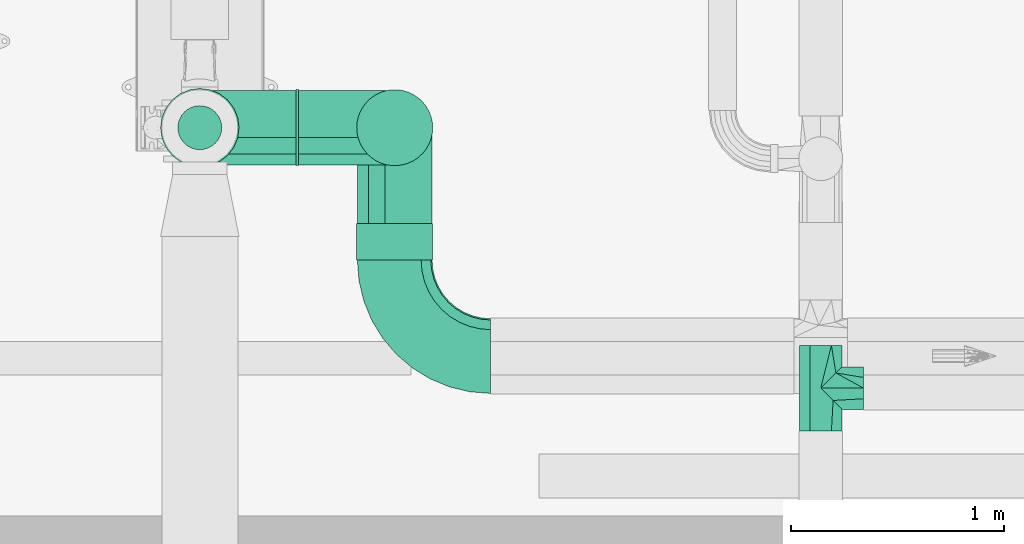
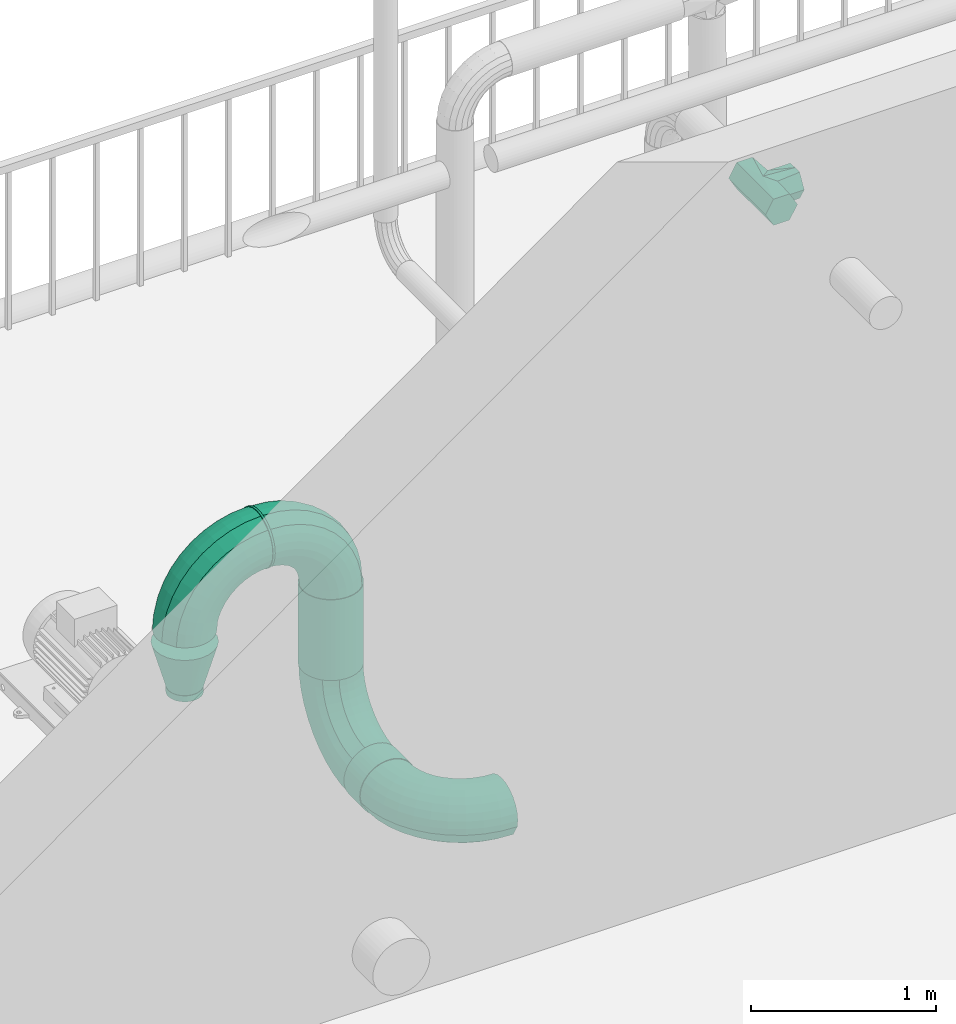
# One storey, part 13 of 28: 6 flow fittings, 4 flow segments.
"""IFC2X3 building model written with IfcOpenShell, lengths in millimetres."""

from ifc_helpers import new_model, entity, si_unit, converted_unit, direction, frame, frame_2d, origin, origin_2d_with_axis, place, context, subcontext, project, spatial, circle, extrude, faceted_brep, source, transform, mapped, material, type_object, type_shapes, element, save


model = new_model("IFC2X3")

# Units and contexts
model_context = context("Model", 3, precision=0.01, world=origin(), true_north=direction((6.123031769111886e-17, 1.0)))
body_context = subcontext(model_context, "Body", "Model", "MODEL_VIEW")
ifc_project = project(units=[si_unit("LENGTHUNIT", "METRE", prefix="MILLI"), converted_unit("PLANEANGLEUNIT", "DEGREE", entity("IfcPlaneAngleMeasure", 0.017453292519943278), si_unit("PLANEANGLEUNIT", "RADIAN"), dimensions=[0, 0, 0, 0, 0, 0, 0]), si_unit("AREAUNIT", "SQUARE_METRE")], contexts=[model_context])

# Site, building, storey
site_placement = place(None, frame((7776.576483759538, 118.3519876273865, 0.0)))
site = spatial("IfcSite", under=ifc_project, at=site_placement, Name="Default", CompositionType="ELEMENT")
building_placement = place(site_placement, origin())
building = spatial("IfcBuilding", under=site, at=building_placement, Name="Bygning (endres i Project Information)", CompositionType="ELEMENT")
storey_placement = place(building_placement, frame((0.0, 0.0, 14000.0)))
storey = spatial("IfcBuildingStorey", under=building, at=storey_placement, Name="Plan U1 - Arbeid", CompositionType="ELEMENT", Elevation=14000.000000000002)

# Flow segments
ifc_material = material(Name="SS 2343 Rustfritt stål, prosessrør, generisk")
pipe_segment_type = type_object("IfcPipeSegmentType", Name="Pipe Types:AISI 304L Rustfritt", PredefinedType="NOTDEFINED", material=ifc_material)
flow_segment_1_placement = place(storey_placement, origin())
element("IfcFlowSegment", 1, at=flow_segment_1_placement, inside=storey, type_object=pipe_segment_type, Name="Pipe Types:AISI 304L Rustfritt", ObjectType="Pipe Types:AISI 304L Rustfritt", context=body_context, shape_type="SweptSolid", body=[
    extrude(circle(Radius=178.0, at=frame_2d((0.0, -2.710011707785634e-25), x_axis=(1.0, 0.0))), frame((23634.00137486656, 26318.06683335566, 1636.4653975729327), z_axis=(1.0, 0.0, 0.0), x_axis=(0.0, -1.0, 0.0)), (0.0, 0.0, 1.0), 13.42895804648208),
])
flow_segment_2_placement = place(storey_placement, origin())
element("IfcFlowSegment", 2, at=flow_segment_2_placement, inside=storey, type_object=pipe_segment_type, Name="Pipe Types:AISI 304L Rustfritt", ObjectType="Pipe Types:AISI 304L Rustfritt", context=body_context, shape_type="SweptSolid", body=[
    extrude(circle(Radius=178.0, at=frame_2d((0.0, 4.331468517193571e-12), x_axis=(1.0, 0.0))), frame((24097.430332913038, 26318.06683335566, 653.0)), (0.0, 0.0, 1.0), 533.4653975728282),
])
flow_segment_3_placement = place(storey_placement, origin())
element("IfcFlowSegment", 3, at=flow_segment_3_placement, inside=storey, type_object=pipe_segment_type, Name="Pipe Types:AISI 304L Rustfritt", ObjectType="Pipe Types:AISI 304L Rustfritt", context=body_context, shape_type="SweptSolid", body=[
    extrude(circle(Radius=178.0, at=origin_2d_with_axis()), frame((24097.430332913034, 25697.757305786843, 203.0), z_axis=(0.0, 1.0, 0.0), x_axis=(-1.0, 0.0, 0.0)), (0.0, 0.0, 1.0), 170.3095275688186),
])
flow_segment_4_placement = place(storey_placement, origin())
element("IfcFlowSegment", 4, at=flow_segment_4_placement, inside=storey, type_object=pipe_segment_type, Name="Pipe Types:AISI 304L Rustfritt", ObjectType="Pipe Types:AISI 304L Rustfritt", context=body_context, shape_type="SweptSolid", body=[
    extrude(circle(Radius=103.0, at=origin_2d_with_axis()), frame((23184.001374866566, 26318.066833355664, 780.0246873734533), z_axis=(0.0, 0.0, 1.0), x_axis=(-1.0, 0.0, 0.0)), (0.0, 0.0, 1.0), 40.00000000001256),
])

# Flow fittings
pipe_fitting_type_1 = type_object("IfcPipeFittingType", Name="VA_prosess_rustfritt_T_D=L:T-rør_prosess_D=L", PredefinedType="NOTDEFINED", material=ifc_material)
shared_shape_1 = source(origin(), body_context, "Body", "Brep", [
    faceted_brep([(-200.0, -100.0, 0.0), (-200.0, -87.49999999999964, 21.65063509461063), (-200.0, -75.0, 43.30127018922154), (-200.0, -50.0, 86.60254037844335), (-200.0, 0.0, 86.60254037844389), (-200.0, 50.0, 86.60254037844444), (-200.0, 75.0, 43.30127018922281), (-200.0, 100.0, 0.0), (-200.0, 79.16042262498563, -36.0952068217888), (-200.0, 50.0, -86.60254037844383), (-200.0, 0.0, -86.60254037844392), (-200.0, -50.0, -86.60254037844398), (-200.0, -75.0, -43.301270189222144), (200.0, 50.0, -86.60254037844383), (200.0, 75.0, -43.30127018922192), (200.0, 100.0, 0.0), (200.0, 75.0, 43.30127018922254), (200.0, 50.0, 86.60254037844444), (200.0, 0.0, 86.60254037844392), (200.0, -50.0, 86.60254037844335), (200.0, -75.0, 43.3012701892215), (200.0, -100.0, 0.0), (200.0, -87.50000000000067, -21.650635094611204), (200.0, -75.0, -43.30127018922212), (200.0, -50.0, -86.60254037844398), (200.0, 0.0, -86.60254037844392), (85.43158849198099, -85.43158849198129, 35.2789248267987), (70.86317698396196, -70.8631769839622, 70.55784965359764), (0.0, 0.0, 100.0), (-58.003463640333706, -58.00346364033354, 81.45918122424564), (100.0, -100.0, 0.0), (-100.0, -100.0, 0.0), (-80.86239826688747, -80.86239826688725, 37.12052237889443), (-79.00173182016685, -79.00173182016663, 40.7295906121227), (80.86239826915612, -80.86239826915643, -37.120522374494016), (-85.43158849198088, -85.43158849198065, -35.27892482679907), (0.0, 0.0, -100.0), (79.00173182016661, -79.00173182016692, -40.729590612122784), (58.003463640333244, -58.0034636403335, -81.45918122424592), (-70.86317698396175, -70.86317698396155, -70.55784965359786), (50.0, -200.0, -86.60254037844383), (79.16042328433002, -200.0, -36.09520567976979), (100.0, -200.0, 0.0), (75.0, -200.0, 43.301270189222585), (50.0, -200.0, 86.60254037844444), (0.0, -200.0, 86.60254037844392), (-50.0, -200.0, 86.60254037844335), (-79.16042252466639, -200.0, 36.09520699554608), (-100.0, -200.0, 0.0), (-75.0, -200.0, -43.30127018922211), (-50.0, -200.0, -86.60254037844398), (0.0, -200.0, -86.60254037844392)], [[[0, 1, 2, 3, 4, 5, 6, 7, 8, 9, 10, 11, 12]], [[13, 14, 15, 16, 17, 18, 19, 20, 21, 22, 23, 24, 25]], [[20, 26, 21]], [[27, 20, 19]], [[28, 19, 18, 17]], [[2, 29, 3]], [[21, 26, 30]], [[0, 31, 1]], [[20, 27, 26]], [[19, 28, 27]], [[7, 6, 5, 17, 16, 15]], [[3, 28, 5, 4]], [[3, 29, 28]], [[32, 2, 1]], [[5, 28, 17]], [[2, 32, 33, 29]], [[31, 32, 1]], [[9, 8, 7, 15, 14, 13]], [[30, 34, 22]], [[0, 35, 31]], [[9, 13, 36]], [[23, 34, 37, 38]], [[10, 9, 36, 11]], [[36, 13, 25, 24]], [[30, 22, 21]], [[34, 23, 22]], [[38, 24, 23]], [[39, 11, 36]], [[12, 35, 0]], [[12, 39, 35]], [[39, 12, 11]], [[24, 38, 36]], [[40, 41, 42, 43, 44, 45, 46, 47, 48, 49, 50, 51]], [[33, 46, 29]], [[31, 48, 47]], [[46, 33, 47]], [[47, 33, 32, 31]], [[29, 46, 45]], [[30, 43, 42]], [[45, 27, 28]], [[27, 44, 43]], [[29, 45, 28]], [[43, 30, 26, 27]], [[45, 44, 27]], [[37, 40, 38]], [[30, 42, 41]], [[40, 37, 41]], [[41, 37, 34, 30]], [[38, 40, 51]], [[31, 49, 48]], [[51, 39, 36]], [[39, 50, 49]], [[38, 51, 36]], [[49, 31, 35, 39]], [[51, 50, 39]]]),
])
type_shapes(pipe_fitting_type_1, [shared_shape_1])
flow_fitting_1_placement = place(storey_placement, frame((26093.826249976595, 25097.757305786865, 3803.0), z_axis=(0.0, 0.0, 1.0), x_axis=(0.0, 1.0, 0.0)))
element("IfcFlowFitting", 5, at=flow_fitting_1_placement, inside=storey, type_object=pipe_fitting_type_1, material=ifc_material, Name="VA_prosess_rustfritt_T_D=L:T-rør_prosess_D=L", ObjectType="VA_prosess_rustfritt_T_D=L:T-rør_prosess_D=L", context=body_context, shape_type="MappedRepresentation", body=[
    mapped(shared_shape_1, transform((0.0, 0.0, 0.0), scale=1.0)),
])
pipe_fitting_type_2 = type_object("IfcPipeFittingType", Name="VA_prosess_rustfritt_bend_D+100:VA_prosess_rustfritt_bend_D+100", PredefinedType="NOTDEFINED", material=ifc_material)
shared_shape_2 = source(origin(), body_context, "Body", "Brep", [
    faceted_brep([(-352.2284593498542, -167.30521287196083, 0.0), (-353.16127499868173, -161.4156466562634, 45.29333289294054), (-450.0, -169.03701960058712, 45.29333289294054), (-450.0, -175.0, 0.0), (-355.89615210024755, -144.14831221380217, 87.4999999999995), (-450.0, -151.5544456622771, 87.4999999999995), (-360.2467132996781, -116.67994985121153, 123.74368670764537), (-450.0, -123.74368670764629, 123.74368670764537), (-365.91647504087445, -80.88248306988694, 151.5544456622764), (-450.0, -87.50000000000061, 151.5544456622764), (-372.5190524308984, -39.19545007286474, 169.03701960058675), (-450.0, -45.29333289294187, 169.03701960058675), (-379.6044907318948, 5.540246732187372, 175.0), (-450.0, 0.0, 175.0), (-386.6899290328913, 50.27594353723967, 169.03701960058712), (-450.0, 45.293332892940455, 169.03701960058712), (-393.29250642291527, 91.96297653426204, 151.55444566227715), (-450.0, 87.49999999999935, 151.55444566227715), (-398.9622681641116, 127.76044331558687, 123.7436867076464), (-450.0, 123.74368670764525, 123.7436867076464), (-406.04770646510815, 172.49614012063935, 45.29333289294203), (-450.0, 169.03701960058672, 45.29333289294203), (-406.98052211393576, 178.3857063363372, 0.0), (-450.0, 175.0, 0.0), (-406.0477064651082, 172.4961401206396, -45.29333289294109), (-450.0, 169.03701960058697, -45.29333289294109), (-403.31282936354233, 155.22880567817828, -87.49999999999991), (-450.0, 151.55444566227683, -87.49999999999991), (-398.9622681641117, 127.76044331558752, -123.74368670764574), (-450.0, 123.7436867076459, -123.74368670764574), (-393.2925064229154, 91.96297653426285, -151.5544456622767), (-450.0, 87.50000000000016, -151.5544456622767), (-386.6899290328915, 50.27594353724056, -169.0370196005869), (-450.0, 45.29333289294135, -169.0370196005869), (-379.604490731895, 5.540246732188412, -175.0), (-450.0, 0.0, -175.0), (-372.5190524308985, -39.195450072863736, -169.03701960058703), (-450.0, -45.29333289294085, -169.03701960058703), (-365.9164750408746, -80.88248306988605, -151.55444566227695), (-450.0, -87.4999999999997, -151.55444566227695), (-360.2467132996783, -116.6799498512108, -123.74368670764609), (-450.0, -123.74368670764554, -123.74368670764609), (-353.16127499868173, -161.41564665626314, -45.29333289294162), (-450.0, -169.03701960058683, -45.29333289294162), (-256.86437851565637, -144.41032268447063, 0.0), (-258.70704079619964, -138.7391913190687, 45.29333289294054), (-264.109453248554, -122.11227545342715, 87.4999999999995), (-272.7034503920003, -95.66267192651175, 123.74368670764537), (-283.9033655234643, -61.19287750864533, 151.5544456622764), (-296.9459429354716, -21.051951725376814, 169.03701960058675), (-310.94235253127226, 22.024567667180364, 175.0), (-324.93876212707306, 65.10108705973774, 169.03701960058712), (-337.9813395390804, 105.24201284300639, 151.55444566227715), (-349.18125467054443, 139.71180726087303, 123.7436867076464), (-363.1776642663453, 182.78832665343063, 45.29333289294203), (-365.0203265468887, 188.4594580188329, 0.0), (-363.17766426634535, 182.78832665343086, -45.29333289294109), (-357.77525181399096, 166.1614107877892, -87.49999999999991), (-349.18125467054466, 139.71180726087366, -123.74368670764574), (-337.9813395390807, 105.24201284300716, -151.5544456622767), (-324.93876212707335, 65.10108705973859, -169.0370196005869), (-310.9423525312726, 22.024567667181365, -175.0), (-296.94594293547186, -21.051951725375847, -169.03701960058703), (-283.9033655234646, -61.192877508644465, -151.55444566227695), (-272.70345039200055, -95.66267192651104, -123.74368670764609), (-258.70704079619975, -138.73919131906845, -45.29333289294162), (-166.25593766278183, -106.87907761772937, 0.0), (-168.9630741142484, -101.56602317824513, 45.29333289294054), (-176.8999965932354, -85.9889357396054, 87.4999999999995), (-189.52581694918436, -61.20936806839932, 123.74368670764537), (-205.9801063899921, -28.916006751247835, 151.5544456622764), (-225.14153228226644, 8.690409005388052, 169.03701960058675), (-245.7042751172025, 49.047064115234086, 175.0), (-266.2670179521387, 89.40371922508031, 169.03701960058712), (-285.4284438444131, 127.0101349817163, 151.55444566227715), (-301.88273328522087, 159.30349629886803, 123.7436867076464), (-322.44547612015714, 199.6601514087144, 45.29333289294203), (-325.15261257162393, 204.973205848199, 0.0), (-322.44547612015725, 199.66015140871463, -45.29333289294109), (-314.50855364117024, 184.0830639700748, -87.49999999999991), (-301.88273328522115, 159.30349629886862, -123.74368670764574), (-285.4284438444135, 127.01013498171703, -151.5544456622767), (-266.2670179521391, 89.4037192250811, -169.0370196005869), (-245.70427511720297, 49.047064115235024, -175.0), (-225.1415322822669, 8.690409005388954, -169.03701960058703), (-205.9801063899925, -28.916006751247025, -151.55444566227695), (-189.5258169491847, -61.20936806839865, -123.74368670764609), (-168.96307411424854, -101.56602317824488, -45.29333289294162), (-82.6342173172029, -55.63562148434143, 0.0), (-86.13916925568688, -50.811469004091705, 45.29333289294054), (-96.4151683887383, -36.667769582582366, 87.4999999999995), (-112.76192235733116, -14.168392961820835, 123.74368670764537), (-134.06542689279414, 15.15336552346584, 151.5544456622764), (-158.87388336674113, 49.299276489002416, 169.03701960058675), (-185.49663646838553, 85.94235253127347, 175.0), (-212.11938957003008, 122.58542857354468, 169.03701960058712), (-236.9278460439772, 156.73133953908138, 151.55444566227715), (-258.2313505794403, 186.05309802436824, 123.7436867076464), (-284.85410368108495, 222.69617406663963, 45.29333289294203), (-288.3590556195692, 227.5203265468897, 0.0), (-284.8541036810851, 222.69617406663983, -45.29333289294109), (-274.5781045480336, 208.55247464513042, -87.49999999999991), (-258.23135057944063, 186.05309802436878, -123.74368670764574), (-236.9278460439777, 156.731339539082, -151.5544456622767), (-212.11938957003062, 122.58542857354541, -169.0370196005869), (-185.49663646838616, 85.94235253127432, -175.0), (-158.87388336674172, 49.29927648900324, -169.03701960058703), (-134.06542689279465, 15.15336552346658, -151.55444566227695), (-112.7619223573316, -14.168392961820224, -123.74368670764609), (-86.13916925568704, -50.81146900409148, -45.29333289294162), (-8.058261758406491, 8.058261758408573, 0.0), (-12.274725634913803, 12.274725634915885, 45.29333289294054), (-24.63677221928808, 24.636772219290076, 87.4999999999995), (-44.30194846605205, 44.30194846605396, 123.74368670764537), (-69.93010511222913, 69.93010511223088, 151.5544456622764), (-99.77472563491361, 99.77472563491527, 169.03701960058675), (-131.801948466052, 131.80194846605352, 175.0), (-163.82917129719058, 163.82917129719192, 169.03701960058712), (-193.6737918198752, 193.67379181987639, 151.55444566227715), (-219.3019484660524, 219.3019484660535, 123.7436867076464), (-251.3291712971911, 251.32917129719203, 45.29333289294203), (-255.54563517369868, 255.54563517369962, 0.0), (-251.32917129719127, 251.32917129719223, -45.29333289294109), (-238.9671247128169, 238.96712471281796, -87.49999999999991), (-219.30194846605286, 219.30194846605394, -123.74368670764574), (-193.67379181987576, 193.67379181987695, -151.5544456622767), (-163.8291712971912, 163.82917129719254, -169.0370196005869), (-131.80194846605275, 131.80194846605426, -175.0), (-99.77472563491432, 99.774725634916, -169.03701960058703), (-69.93010511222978, 69.93010511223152, -151.55444566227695), (-44.30194846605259, 44.3019484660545, -123.74368670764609), (-12.274725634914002, 12.274725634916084, -45.29333289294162), (55.63562148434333, 82.63421731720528, 0.0), (50.81146900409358, 86.13916925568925, 45.29333289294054), (36.667769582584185, 96.41516838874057, 87.4999999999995), (14.168392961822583, 112.76192235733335, 123.74368670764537), (-15.153365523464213, 134.06542689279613, 151.5544456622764), (-49.29927648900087, 158.873883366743, 169.03701960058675), (-85.94235253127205, 185.49663646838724, 175.0), (-122.5854285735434, 212.11938957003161, 169.03701960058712), (-156.73133953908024, 236.92784604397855, 151.55444566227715), (-186.05309802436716, 258.23135057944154, 123.7436867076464), (-222.6961740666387, 284.854103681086, 45.29333289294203), (-227.52032654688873, 288.35905561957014, 0.0), (-222.6961740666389, 284.85410368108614, -45.29333289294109), (-208.5524746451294, 274.5781045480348, -87.49999999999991), (-186.05309802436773, 258.2313505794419, -123.74368670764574), (-156.73133953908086, 236.92784604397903, -151.5544456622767), (-122.58542857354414, 212.11938957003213, -169.0370196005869), (-85.9423525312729, 185.49663646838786, -175.0), (-49.29927648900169, 158.8738833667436, -169.03701960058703), (-15.153365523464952, 134.06542689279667, -151.55444566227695), (14.168392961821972, 112.76192235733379, -123.74368670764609), (50.811469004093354, 86.13916925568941, -45.29333289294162), (106.87907761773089, 166.25593766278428, 0.0), (101.56602317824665, 168.96307411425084, 45.29333289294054), (85.98893573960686, 176.89999659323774, 87.4999999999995), (61.209368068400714, 189.5258169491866, 123.74368670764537), (28.916006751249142, 205.98010638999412, 151.5544456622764), (-8.690409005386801, 225.14153228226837, 169.03701960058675), (-49.047064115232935, 245.70427511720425, 175.0), (-89.40371922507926, 266.2670179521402, 169.03701960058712), (-127.01013498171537, 285.42844384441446, 151.55444566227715), (-159.30349629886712, 301.8827332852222, 123.7436867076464), (-199.6601514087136, 322.44547612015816, 45.29333289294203), (-204.97320584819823, 325.1526125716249, 0.0), (-199.66015140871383, 322.4454761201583, -45.29333289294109), (-184.08306397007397, 314.5085536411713, -87.49999999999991), (-159.3034962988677, 301.88273328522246, -123.74368670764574), (-127.01013498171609, 285.42844384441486, -151.5544456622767), (-89.40371922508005, 266.2670179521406, -169.0370196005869), (-49.04706411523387, 245.7042751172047, -175.0), (-8.690409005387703, 225.14153228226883, -169.03701960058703), (28.916006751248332, 205.98010638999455, -151.55444566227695), (61.209368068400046, 189.52581694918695, -123.74368670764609), (101.5660231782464, 168.96307411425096, -45.29333289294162), (144.41032268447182, 256.8643785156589, 0.0), (138.73919131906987, 258.7070407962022, 45.29333289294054), (122.11227545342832, 264.1094532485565, 87.4999999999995), (95.66267192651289, 272.7034503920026, 123.74368670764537), (61.19287750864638, 283.9033655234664, 151.5544456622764), (21.05195172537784, 296.9459429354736, 169.03701960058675), (-22.024567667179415, 310.9423525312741, 175.0), (-65.10108705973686, 324.9387621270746, 169.03701960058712), (-105.24201284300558, 337.98133953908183, 151.55444566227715), (-139.7118072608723, 349.1812546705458, 123.7436867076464), (-182.7883266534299, 363.17766426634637, 45.29333289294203), (-188.45945801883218, 365.0203265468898, 0.0), (-182.78832665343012, 363.1776642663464, -45.29333289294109), (-166.16141078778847, 357.7752518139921, -87.49999999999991), (-139.71180726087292, 349.18125467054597, -123.74368670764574), (-105.24201284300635, 337.9813395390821, -151.5544456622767), (-65.10108705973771, 324.9387621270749, -169.0370196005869), (-22.024567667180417, 310.9423525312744, -175.0), (21.051951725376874, 296.94594293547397, -169.03701960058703), (61.192877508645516, 283.9033655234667, -151.55444566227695), (95.66267192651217, 272.7034503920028, -123.74368670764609), (138.73919131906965, 258.7070407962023, -45.29333289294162), (167.30521287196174, 352.22845934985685, 0.0), (161.4156466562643, 353.16127499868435, 45.29333289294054), (144.14831221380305, 355.89615210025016, 87.4999999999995), (116.67994985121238, 360.2467132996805, 123.74368670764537), (80.88248306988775, 365.9164750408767, 151.5544456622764), (39.19545007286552, 372.5190524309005, 169.03701960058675), (-5.5402467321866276, 379.6044907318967, 175.0), (-50.27594353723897, 386.68992903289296, 169.03701960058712), (-91.96297653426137, 393.29250642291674, 151.55444566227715), (-127.76044331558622, 398.962268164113, 123.7436867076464), (-172.49614012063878, 406.0477064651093, 45.29333289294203), (-178.38570633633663, 406.98052211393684, 0.0), (-172.49614012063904, 406.0477064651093, -45.29333289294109), (-155.22880567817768, 403.3128293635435, -87.49999999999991), (-127.76044331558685, 398.9622681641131, -123.74368670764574), (-91.96297653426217, 393.29250642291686, -151.5544456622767), (-50.275943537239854, 386.6899290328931, -169.0370196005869), (-5.540246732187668, 379.6044907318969, -175.0), (39.19545007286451, 372.5190524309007, -169.03701960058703), (80.88248306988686, 365.9164750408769, -151.55444566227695), (116.67994985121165, 360.2467132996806, -123.74368670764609), (161.41564665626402, 353.1612749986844, -45.29333289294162), (175.0, 450.0, 0.0), (169.0370196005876, 450.0, 45.29333289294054), (151.55444566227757, 450.0, 87.4999999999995), (123.74368670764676, 450.0, 123.74368670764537), (87.50000000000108, 450.0, 151.5544456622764), (45.293332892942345, 450.0, 169.03701960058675), (0.0, 450.0, 175.0), (-45.29333289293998, 450.0, 169.03701960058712), (-87.49999999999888, 450.0, 151.55444566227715), (-123.74368670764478, 450.0, 123.7436867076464), (-169.03701960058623, 450.0, 45.29333289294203), (-175.0, 450.0, 0.0), (-169.0370196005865, 450.0, -45.29333289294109), (-151.55444566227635, 450.0, -87.49999999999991), (-123.74368670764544, 450.0, -123.74368670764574), (-87.49999999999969, 450.0, -151.5544456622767), (-45.293332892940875, 450.0, -169.0370196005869), (0.0, 450.0, -175.0), (45.29333289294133, 450.0, -169.03701960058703), (87.50000000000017, 450.0, -151.55444566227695), (123.743686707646, 450.0, -123.74368670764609), (169.0370196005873, 450.0, -45.29333289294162)], [[[0, 1, 2, 3]], [[1, 4, 5, 2]], [[4, 6, 7, 5]], [[6, 8, 9, 7]], [[8, 10, 11, 9]], [[10, 12, 13, 11]], [[12, 14, 15, 13]], [[14, 16, 17, 15]], [[16, 18, 19, 17]], [[18, 20, 21, 19]], [[20, 22, 23, 21]], [[22, 24, 25, 23]], [[24, 26, 27, 25]], [[26, 28, 29, 27]], [[28, 30, 31, 29]], [[30, 32, 33, 31]], [[32, 34, 35, 33]], [[34, 36, 37, 35]], [[36, 38, 39, 37]], [[38, 40, 41, 39]], [[40, 42, 43, 41]], [[42, 0, 3, 43]], [[44, 45, 1, 0]], [[45, 46, 4, 1]], [[46, 47, 6, 4]], [[47, 48, 8, 6]], [[48, 49, 10, 8]], [[49, 50, 12, 10]], [[50, 51, 14, 12]], [[51, 52, 16, 14]], [[52, 53, 18, 16]], [[53, 54, 20, 18]], [[54, 55, 22, 20]], [[55, 56, 24, 22]], [[56, 57, 26, 24]], [[57, 58, 28, 26]], [[58, 59, 30, 28]], [[59, 60, 32, 30]], [[60, 61, 34, 32]], [[61, 62, 36, 34]], [[62, 63, 38, 36]], [[63, 64, 40, 38]], [[64, 65, 42, 40]], [[65, 44, 0, 42]], [[66, 67, 45, 44]], [[67, 68, 46, 45]], [[68, 69, 47, 46]], [[69, 70, 48, 47]], [[70, 71, 49, 48]], [[71, 72, 50, 49]], [[72, 73, 51, 50]], [[73, 74, 52, 51]], [[74, 75, 53, 52]], [[75, 76, 54, 53]], [[76, 77, 55, 54]], [[77, 78, 56, 55]], [[78, 79, 57, 56]], [[79, 80, 58, 57]], [[80, 81, 59, 58]], [[81, 82, 60, 59]], [[82, 83, 61, 60]], [[83, 84, 62, 61]], [[84, 85, 63, 62]], [[85, 86, 64, 63]], [[86, 87, 65, 64]], [[87, 66, 44, 65]], [[88, 89, 67, 66]], [[89, 90, 68, 67]], [[90, 91, 69, 68]], [[91, 92, 70, 69]], [[92, 93, 71, 70]], [[93, 94, 72, 71]], [[94, 95, 73, 72]], [[95, 96, 74, 73]], [[96, 97, 75, 74]], [[97, 98, 76, 75]], [[98, 99, 77, 76]], [[99, 100, 78, 77]], [[100, 101, 79, 78]], [[101, 102, 80, 79]], [[102, 103, 81, 80]], [[103, 104, 82, 81]], [[104, 105, 83, 82]], [[105, 106, 84, 83]], [[106, 107, 85, 84]], [[107, 108, 86, 85]], [[108, 109, 87, 86]], [[109, 88, 66, 87]], [[110, 111, 89, 88]], [[111, 112, 90, 89]], [[112, 113, 91, 90]], [[113, 114, 92, 91]], [[114, 115, 93, 92]], [[115, 116, 94, 93]], [[116, 117, 95, 94]], [[117, 118, 96, 95]], [[118, 119, 97, 96]], [[119, 120, 98, 97]], [[120, 121, 99, 98]], [[121, 122, 100, 99]], [[122, 123, 101, 100]], [[123, 124, 102, 101]], [[124, 125, 103, 102]], [[125, 126, 104, 103]], [[126, 127, 105, 104]], [[127, 128, 106, 105]], [[128, 129, 107, 106]], [[129, 130, 108, 107]], [[130, 131, 109, 108]], [[131, 110, 88, 109]], [[132, 133, 111, 110]], [[133, 134, 112, 111]], [[134, 135, 113, 112]], [[135, 136, 114, 113]], [[136, 137, 115, 114]], [[137, 138, 116, 115]], [[138, 139, 117, 116]], [[139, 140, 118, 117]], [[140, 141, 119, 118]], [[141, 142, 120, 119]], [[142, 143, 121, 120]], [[143, 144, 122, 121]], [[144, 145, 123, 122]], [[145, 146, 124, 123]], [[146, 147, 125, 124]], [[147, 148, 126, 125]], [[148, 149, 127, 126]], [[149, 150, 128, 127]], [[150, 151, 129, 128]], [[151, 152, 130, 129]], [[152, 153, 131, 130]], [[153, 132, 110, 131]], [[154, 155, 133, 132]], [[155, 156, 134, 133]], [[156, 157, 135, 134]], [[157, 158, 136, 135]], [[158, 159, 137, 136]], [[159, 160, 138, 137]], [[160, 161, 139, 138]], [[161, 162, 140, 139]], [[162, 163, 141, 140]], [[163, 164, 142, 141]], [[164, 165, 143, 142]], [[165, 166, 144, 143]], [[166, 167, 145, 144]], [[167, 168, 146, 145]], [[168, 169, 147, 146]], [[169, 170, 148, 147]], [[170, 171, 149, 148]], [[171, 172, 150, 149]], [[172, 173, 151, 150]], [[173, 174, 152, 151]], [[174, 175, 153, 152]], [[175, 154, 132, 153]], [[176, 177, 155, 154]], [[177, 178, 156, 155]], [[178, 179, 157, 156]], [[179, 180, 158, 157]], [[180, 181, 159, 158]], [[181, 182, 160, 159]], [[182, 183, 161, 160]], [[183, 184, 162, 161]], [[184, 185, 163, 162]], [[185, 186, 164, 163]], [[186, 187, 165, 164]], [[187, 188, 166, 165]], [[188, 189, 167, 166]], [[189, 190, 168, 167]], [[190, 191, 169, 168]], [[191, 192, 170, 169]], [[192, 193, 171, 170]], [[193, 194, 172, 171]], [[194, 195, 173, 172]], [[195, 196, 174, 173]], [[196, 197, 175, 174]], [[197, 176, 154, 175]], [[198, 199, 177, 176]], [[199, 200, 178, 177]], [[200, 201, 179, 178]], [[201, 202, 180, 179]], [[202, 203, 181, 180]], [[203, 204, 182, 181]], [[204, 205, 183, 182]], [[205, 206, 184, 183]], [[206, 207, 185, 184]], [[207, 208, 186, 185]], [[208, 209, 187, 186]], [[209, 210, 188, 187]], [[210, 211, 189, 188]], [[211, 212, 190, 189]], [[212, 213, 191, 190]], [[213, 214, 192, 191]], [[214, 215, 193, 192]], [[215, 216, 194, 193]], [[216, 217, 195, 194]], [[217, 218, 196, 195]], [[218, 219, 197, 196]], [[219, 198, 176, 197]], [[220, 221, 199, 198]], [[221, 222, 200, 199]], [[222, 223, 201, 200]], [[223, 224, 202, 201]], [[224, 225, 203, 202]], [[225, 226, 204, 203]], [[226, 227, 205, 204]], [[227, 228, 206, 205]], [[228, 229, 207, 206]], [[229, 230, 208, 207]], [[230, 231, 209, 208]], [[231, 232, 210, 209]], [[232, 233, 211, 210]], [[233, 234, 212, 211]], [[234, 235, 213, 212]], [[235, 236, 214, 213]], [[236, 237, 215, 214]], [[237, 238, 216, 215]], [[238, 239, 217, 216]], [[239, 240, 218, 217]], [[240, 241, 219, 218]], [[241, 220, 198, 219]], [[3, 2, 5, 7, 9, 11, 13, 15, 17, 19, 21, 23, 25, 27, 29, 31, 33, 35, 37, 39, 41, 43]], [[241, 240, 239, 238, 237, 236, 235, 234, 233, 232, 231, 230, 229, 228, 227, 226, 225, 224, 223, 222, 221, 220]]]),
])
type_shapes(pipe_fitting_type_2, [shared_shape_2])
for number, where, z_axis, x_axis in (
    (6, (23184.00137486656, 26318.06683335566, 1636.4653975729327), (0.0, 1.0, 0.0), (0.0, 0.0, 1.0)),
    (7, (24097.430332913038, 26318.066833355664, 1636.4653975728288), (0.0, 1.0, 0.0), (1.0, 0.0, 0.0)),
    (8, (24097.430332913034, 26318.066833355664, 203.0), (-1.0, 0.0, 0.0), (0.0, 0.0, -1.0)),
    (9, (24097.430332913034, 25247.757305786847, 203.0), (0.0, 0.0, 1.0), (0.0, -1.0, 0.0)),
):
    element("IfcFlowFitting", number, at=place(storey_placement, frame(where, z_axis=z_axis, x_axis=x_axis)), inside=storey, type_object=pipe_fitting_type_2, material=ifc_material, Name="VA_prosess_rustfritt_bend_D+100:VA_prosess_rustfritt_bend_D+100", ObjectType="VA_prosess_rustfritt_bend_D+100:VA_prosess_rustfritt_bend_D+100", context=body_context, shape_type="MappedRepresentation", body=[
        mapped(shared_shape_2, transform((0.0, 0.0, 0.0), scale=1.0)),
    ])
pipe_fitting_type_3 = type_object("IfcPipeFittingType", Name="Overganger, konsentriske, rustfritt EN 1,4307304L:Standard", PredefinedType="NOTDEFINED", material=ifc_material)
shared_shape_3 = source(origin(), body_context, "Body", "Brep", [
    faceted_brep([(289.7000000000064, 91.89999999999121, 159.17546921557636), (289.70000000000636, 47.5709404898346, 177.53716687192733), (289.7000000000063, 0.0, 183.7999999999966), (289.70000000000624, -47.57094048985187, 177.5371668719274), (289.7000000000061, -91.90000000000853, 159.17546921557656), (289.70000000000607, -129.966226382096, 129.9662263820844), (289.700000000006, -159.17546921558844, 91.89999999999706), (289.70000000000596, -177.5371668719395, 47.57094048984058), (289.70000000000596, -183.80000000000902, 0.0), (289.70000000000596, -177.53716687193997, -47.57094048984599), (289.700000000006, -159.17546921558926, -91.90000000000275), (289.70000000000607, -129.96622638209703, -129.96622638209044), (289.7000000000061, -91.90000000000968, -159.17546921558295), (289.70000000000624, -47.57094048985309, -177.5371668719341), (289.7000000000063, 0.0, -183.80000000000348), (289.70000000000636, 47.57094048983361, -177.53716687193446), (289.7000000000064, 91.89999999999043, -159.17546921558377), (289.70000000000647, 129.96622638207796, -129.96622638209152), (289.7000000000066, 159.17546921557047, -91.90000000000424), (289.7000000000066, 177.53716687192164, -47.57094048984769), (289.7000000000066, 183.79999999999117, 0.0), (289.7000000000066, 177.53716687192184, 47.57094048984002), (289.7000000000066, 159.17546921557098, 91.89999999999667), (289.70000000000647, 129.96622638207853, 129.96622638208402), (0.0, -17.71211412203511, 100.45039080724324), (0.0, 17.71211412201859, 100.45039080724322), (0.0, 51.0, 88.33459118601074), (0.0, 78.13653319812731, 65.56433618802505), (0.0, 95.84864732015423, 34.88605461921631), (0.0, 102.0, 0.0), (0.0, 95.84864732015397, -34.88605461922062), (0.0, 78.13653319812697, -65.56433618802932), (0.0, 51.0, -88.33459118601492), (0.0, 17.712114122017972, -100.45039080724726), (0.0, -17.712114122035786, -100.4503908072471), (0.0, -51.0, -88.33459118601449), (0.0, -78.13653319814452, -65.56433618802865), (0.0, -95.84864732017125, -34.886054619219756), (0.0, -102.0, 0.0), (0.0, -95.8486473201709, 34.88605461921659), (0.0, -78.13653319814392, 65.56433618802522), (0.0, -51.0, 88.33459118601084)], [[[0, 1, 2, 3, 4, 5, 6, 7, 8, 9, 10, 11, 12, 13, 14, 15, 16, 17, 18, 19, 20, 21, 22, 23]], [[24, 25, 26, 27, 28, 29, 30, 31, 32, 33, 34, 35, 36, 37, 38, 39, 40, 41]], [[9, 38, 37]], [[11, 36, 35]], [[10, 37, 36]], [[13, 35, 34]], [[9, 8, 38]], [[10, 9, 37]], [[35, 12, 11]], [[11, 10, 36]], [[13, 12, 35]], [[34, 14, 13]], [[15, 14, 33]], [[33, 14, 34]], [[32, 15, 33]], [[18, 31, 30]], [[17, 32, 31]], [[19, 30, 29]], [[32, 16, 15]], [[32, 17, 16]], [[18, 17, 31]], [[30, 19, 18]], [[29, 20, 19]], [[21, 29, 28]], [[23, 27, 26]], [[22, 28, 27]], [[1, 26, 25]], [[21, 20, 29]], [[22, 21, 28]], [[26, 0, 23]], [[23, 22, 27]], [[1, 0, 26]], [[25, 2, 1]], [[3, 2, 24]], [[24, 2, 25]], [[41, 3, 24]], [[6, 40, 39]], [[5, 41, 40]], [[7, 39, 38]], [[41, 4, 3]], [[41, 5, 4]], [[6, 5, 40]], [[39, 7, 6]], [[38, 8, 7]]]),
])
type_shapes(pipe_fitting_type_3, [shared_shape_3])
flow_fitting_2_placement = place(storey_placement, frame((23184.00137486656, 26318.066833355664, 820.0246873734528), z_axis=(0.0, -1.0, 0.0), x_axis=(0.0, 0.0, 1.0)))
element("IfcFlowFitting", 10, at=flow_fitting_2_placement, inside=storey, type_object=pipe_fitting_type_3, material=ifc_material, Name="Overganger, konsentriske, rustfritt EN 1,4307304L:Standard", ObjectType="Overganger, konsentriske, rustfritt EN 1,4307304L:Standard", context=body_context, shape_type="MappedRepresentation", body=[
    mapped(shared_shape_3, transform((0.0, 0.0, 0.0), scale=1.0)),
])

save(model, "model.ifc")
